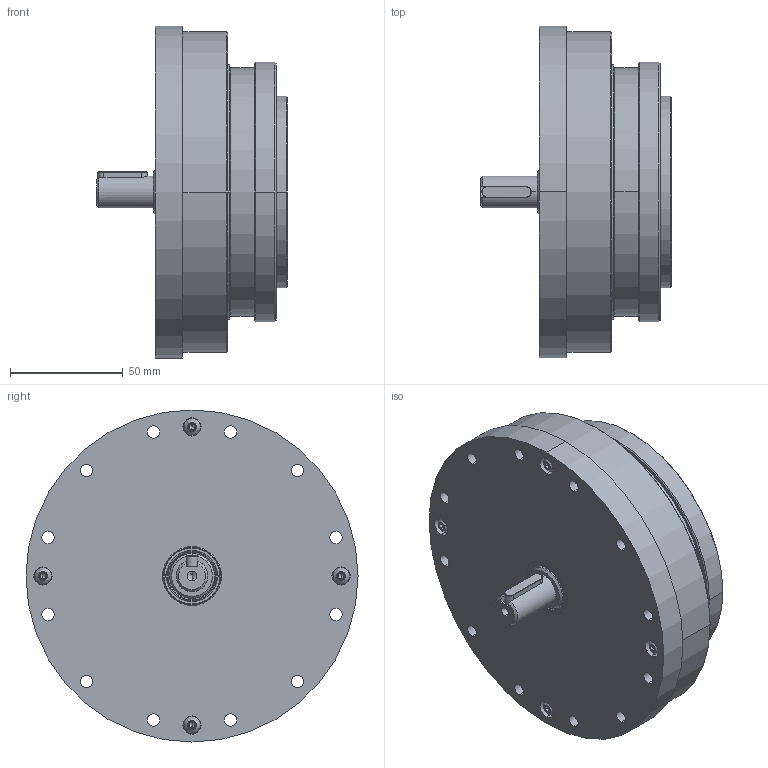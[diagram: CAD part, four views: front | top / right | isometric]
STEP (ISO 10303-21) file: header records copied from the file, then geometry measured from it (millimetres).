
FILE_DESCRIPTION (( 'STEP AP203' ), '1' );
FILE_NAME ('FHS-32-XXX-AJ.STEP', '2022-12-14T01:55:13', ( '微软用户' ), ( '微软中国' ), 'SwSTEP 2.0', 'SolidWorks 2016', '' );
FILE_SCHEMA (( 'CONFIG_CONTROL_DESIGN' ));
Length unit declared in the file: millimetre
Products named in the file (1): FHS-32-XXX-AJ
Bounding box: 84.5 x 147 x 147 mm (x, y, z)
Volume: 451170.1 mm3; surface area: 187305.7 mm2
Topology: 18 solids, 18 shells, 936 faces, 2286 edges, 1439 vertices
Faces by surface type: cylinder 397, cone 263, plane 238, bspline 32, torus 6
Entity records: 29136 total; most frequent: CARTESIAN_POINT 6313, DIRECTION 5106, ORIENTED_EDGE 4456, EDGE_CURVE 2228, AXIS2_PLACEMENT_3D 2077, VERTEX_POINT 1439, EDGE_LOOP 1199, CIRCLE 1172
